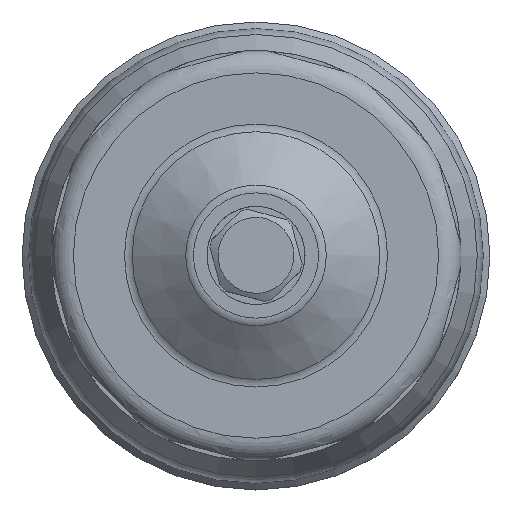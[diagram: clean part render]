
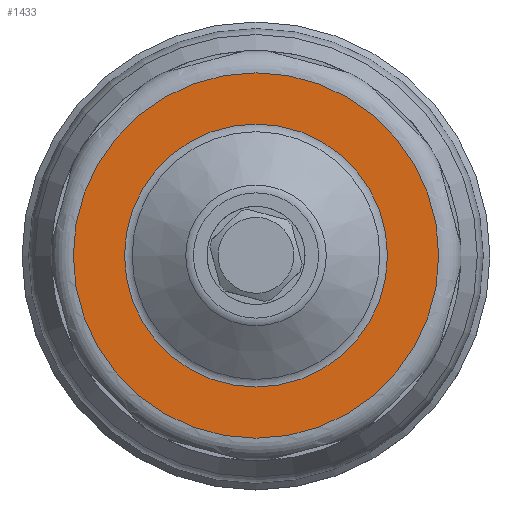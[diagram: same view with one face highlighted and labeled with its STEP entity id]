
A CAD part, top view. The second image highlights one B-rep face of the part: STEP entity #1433.
In plain terms, the highlighted planar face has unit normal (0, 0, 1).
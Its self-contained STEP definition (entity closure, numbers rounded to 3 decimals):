
#147=PLANE('',#1550);
#290=ORIENTED_EDGE('',*,*,#532,.F.);
#291=ORIENTED_EDGE('',*,*,#533,.T.);
#532=EDGE_CURVE('',#664,#664,#738,.T.);
#533=EDGE_CURVE('',#665,#665,#739,.T.);
#664=VERTEX_POINT('',#2102);
#665=VERTEX_POINT('',#2105);
#738=CIRCLE('',#1549,29.513);
#739=CIRCLE('',#1551,41.);
#801=EDGE_LOOP('',(#290));
#802=EDGE_LOOP('',(#291));
#893=FACE_BOUND('',#801,.T.);
#894=FACE_BOUND('',#802,.T.);
#1433=ADVANCED_FACE('',(#893,#894),#147,.F.);
#1549=AXIS2_PLACEMENT_3D('',#2101,#1775,#1776);
#1550=AXIS2_PLACEMENT_3D('',#2103,#1777,#1778);
#1551=AXIS2_PLACEMENT_3D('',#2104,#1779,#1780);
#1775=DIRECTION('',(0.,0.,1.));
#1776=DIRECTION('',(1.,0.,0.));
#1777=DIRECTION('',(0.,0.,-1.));
#1778=DIRECTION('',(-1.,0.,0.));
#1779=DIRECTION('',(0.,0.,1.));
#1780=DIRECTION('',(1.,0.,0.));
#2101=CARTESIAN_POINT('',(0.,0.,68.836));
#2102=CARTESIAN_POINT('',(29.513,0.,68.836));
#2103=CARTESIAN_POINT('',(29.513,0.,68.836));
#2104=CARTESIAN_POINT('',(0.,0.,68.836));
#2105=CARTESIAN_POINT('',(41.,0.,68.836));
